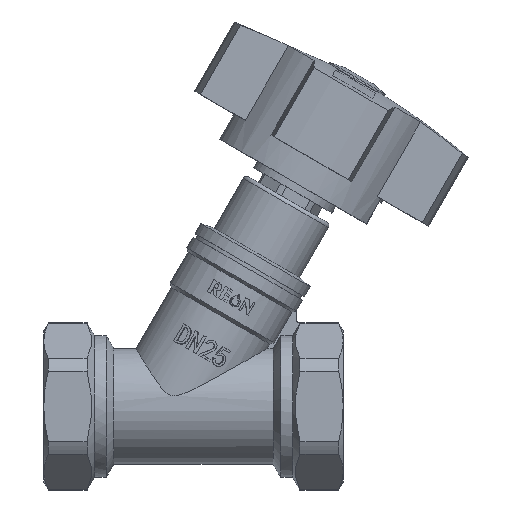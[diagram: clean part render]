
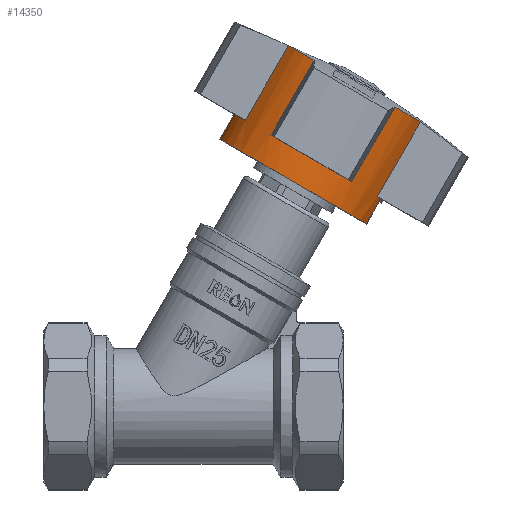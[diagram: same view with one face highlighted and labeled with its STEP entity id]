
A CAD part, top view. The second image highlights one B-rep face of the part: STEP entity #14350.
In plain terms, the highlighted cylindrical face has radius 23 mm (diameter 46 mm), a partial arc.
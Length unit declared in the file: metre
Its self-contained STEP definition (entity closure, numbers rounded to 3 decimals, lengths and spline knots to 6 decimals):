
#1852=LINE('',#47496,#2719);
#1853=LINE('',#47499,#2720);
#1854=LINE('',#47500,#2721);
#1855=LINE('',#47501,#2722);
#1856=LINE('',#47502,#2723);
#1857=LINE('',#47503,#2724);
#1858=LINE('',#47504,#2725);
#1859=LINE('',#47505,#2726);
#1860=LINE('',#47506,#2727);
#1861=LINE('',#47507,#2728);
#2719=VECTOR('',#18750,1.);
#2720=VECTOR('',#18753,1.);
#2721=VECTOR('',#18754,1.);
#2722=VECTOR('',#18755,1.);
#2723=VECTOR('',#18756,1.);
#2724=VECTOR('',#18757,1.);
#2725=VECTOR('',#18758,1.);
#2726=VECTOR('',#18759,1.);
#2727=VECTOR('',#18760,1.);
#2728=VECTOR('',#18761,1.);
#3258=CYLINDRICAL_SURFACE('',#15685,0.023);
#3944=FACE_OUTER_BOUND('',#4862,.T.);
#4862=EDGE_LOOP('',(#12498,#12499,#12500,#12501,#12502,#12503,#12504,#12505,
#12506,#12507,#12508,#12509,#12510,#12511,#12512,#12513,#12514,#12515,#12516,
#12517));
#5554=CIRCLE('',#15556,0.023);
#5558=CIRCLE('',#15560,0.023);
#5562=CIRCLE('',#15564,0.023);
#5566=CIRCLE('',#15568,0.023);
#5644=CIRCLE('',#15667,0.023);
#5647=CIRCLE('',#15671,0.023);
#5650=CIRCLE('',#15675,0.023);
#5651=CIRCLE('',#15676,0.023);
#5655=CIRCLE('',#15682,0.023);
#5658=CIRCLE('',#15686,0.023);
#6776=VERTEX_POINT('',#47148);
#6777=VERTEX_POINT('',#47150);
#6780=VERTEX_POINT('',#47156);
#6781=VERTEX_POINT('',#47158);
#6784=VERTEX_POINT('',#47164);
#6785=VERTEX_POINT('',#47166);
#6788=VERTEX_POINT('',#47172);
#6789=VERTEX_POINT('',#47174);
#6904=VERTEX_POINT('',#47428);
#6905=VERTEX_POINT('',#47430);
#6910=VERTEX_POINT('',#47442);
#6911=VERTEX_POINT('',#47444);
#6916=VERTEX_POINT('',#47456);
#6917=VERTEX_POINT('',#47458);
#6918=VERTEX_POINT('',#47461);
#6919=VERTEX_POINT('',#47463);
#6926=VERTEX_POINT('',#47481);
#6927=VERTEX_POINT('',#47483);
#6932=VERTEX_POINT('',#47495);
#6933=VERTEX_POINT('',#47497);
#8707=EDGE_CURVE('',#6777,#6776,#5554,.T.);
#8711=EDGE_CURVE('',#6781,#6780,#5558,.T.);
#8715=EDGE_CURVE('',#6785,#6784,#5562,.T.);
#8719=EDGE_CURVE('',#6789,#6788,#5566,.T.);
#8838=EDGE_CURVE('',#6905,#6904,#5644,.T.);
#8845=EDGE_CURVE('',#6911,#6910,#5647,.T.);
#8852=EDGE_CURVE('',#6917,#6916,#5650,.T.);
#8855=EDGE_CURVE('',#6919,#6918,#5651,.T.);
#8866=EDGE_CURVE('',#6926,#6927,#5655,.T.);
#8871=EDGE_CURVE('',#6932,#6916,#1852,.T.);
#8872=EDGE_CURVE('',#6933,#6932,#5658,.T.);
#8873=EDGE_CURVE('',#6919,#6933,#1853,.T.);
#8874=EDGE_CURVE('',#6789,#6918,#1854,.T.);
#8875=EDGE_CURVE('',#6788,#6911,#1855,.T.);
#8876=EDGE_CURVE('',#6785,#6910,#1856,.T.);
#8877=EDGE_CURVE('',#6784,#6905,#1857,.T.);
#8878=EDGE_CURVE('',#6781,#6904,#1858,.T.);
#8879=EDGE_CURVE('',#6780,#6926,#1859,.T.);
#8880=EDGE_CURVE('',#6777,#6927,#1860,.T.);
#8881=EDGE_CURVE('',#6776,#6917,#1861,.T.);
#12498=ORIENTED_EDGE('',*,*,#8871,.F.);
#12499=ORIENTED_EDGE('',*,*,#8872,.F.);
#12500=ORIENTED_EDGE('',*,*,#8873,.F.);
#12501=ORIENTED_EDGE('',*,*,#8855,.T.);
#12502=ORIENTED_EDGE('',*,*,#8874,.F.);
#12503=ORIENTED_EDGE('',*,*,#8719,.T.);
#12504=ORIENTED_EDGE('',*,*,#8875,.T.);
#12505=ORIENTED_EDGE('',*,*,#8845,.T.);
#12506=ORIENTED_EDGE('',*,*,#8876,.F.);
#12507=ORIENTED_EDGE('',*,*,#8715,.T.);
#12508=ORIENTED_EDGE('',*,*,#8877,.T.);
#12509=ORIENTED_EDGE('',*,*,#8838,.T.);
#12510=ORIENTED_EDGE('',*,*,#8878,.F.);
#12511=ORIENTED_EDGE('',*,*,#8711,.T.);
#12512=ORIENTED_EDGE('',*,*,#8879,.T.);
#12513=ORIENTED_EDGE('',*,*,#8866,.T.);
#12514=ORIENTED_EDGE('',*,*,#8880,.F.);
#12515=ORIENTED_EDGE('',*,*,#8707,.T.);
#12516=ORIENTED_EDGE('',*,*,#8881,.T.);
#12517=ORIENTED_EDGE('',*,*,#8852,.T.);
#14350=ADVANCED_FACE('',(#3944),#3258,.T.);
#15556=AXIS2_PLACEMENT_3D('',#47151,#18430,#18431);
#15560=AXIS2_PLACEMENT_3D('',#47159,#18438,#18439);
#15564=AXIS2_PLACEMENT_3D('',#47167,#18446,#18447);
#15568=AXIS2_PLACEMENT_3D('',#47175,#18454,#18455);
#15667=AXIS2_PLACEMENT_3D('',#47431,#18693,#18694);
#15671=AXIS2_PLACEMENT_3D('',#47445,#18705,#18706);
#15675=AXIS2_PLACEMENT_3D('',#47459,#18717,#18718);
#15676=AXIS2_PLACEMENT_3D('',#47464,#18721,#18722);
#15682=AXIS2_PLACEMENT_3D('',#47485,#18740,#18741);
#15685=AXIS2_PLACEMENT_3D('',#47494,#18748,#18749);
#15686=AXIS2_PLACEMENT_3D('',#47498,#18751,#18752);
#18430=DIRECTION('center_axis',(-0.5,-0.866,0.));
#18431=DIRECTION('ref_axis',(0.,0.,
-1.));
#18438=DIRECTION('center_axis',(-0.5,-0.866,0.));
#18439=DIRECTION('ref_axis',(0.866,-0.5,0.));
#18446=DIRECTION('center_axis',(-0.5,-0.866,0.));
#18447=DIRECTION('ref_axis',(0.866,-0.5,0.));
#18454=DIRECTION('center_axis',(-0.5,-0.866,0.));
#18455=DIRECTION('ref_axis',(0.,0.,
-1.));
#18693=DIRECTION('center_axis',(-0.5,-0.866,0.));
#18694=DIRECTION('ref_axis',(0.866,-0.5,0.));
#18705=DIRECTION('center_axis',(-0.5,-0.866,0.));
#18706=DIRECTION('ref_axis',(0.866,-0.5,0.));
#18717=DIRECTION('center_axis',(-0.5,-0.866,0.));
#18718=DIRECTION('ref_axis',(0.866,-0.5,0.));
#18721=DIRECTION('center_axis',(-0.5,-0.866,0.));
#18722=DIRECTION('ref_axis',(0.866,-0.5,0.));
#18740=DIRECTION('center_axis',(-0.5,-0.866,0.));
#18741=DIRECTION('ref_axis',(0.866,-0.5,0.));
#18748=DIRECTION('center_axis',(-0.5,-0.866,0.));
#18749=DIRECTION('ref_axis',(-0.866,0.5,0.));
#18750=DIRECTION('',(0.5,0.866,0.));
#18751=DIRECTION('center_axis',(-0.5,-0.866,0.));
#18752=DIRECTION('ref_axis',(0.866,-0.5,0.));
#18753=DIRECTION('',(-0.5,-0.866,0.));
#18754=DIRECTION('',(-0.5,-0.866,0.));
#18755=DIRECTION('',(-0.5,-0.866,0.));
#18756=DIRECTION('',(-0.5,-0.866,0.));
#18757=DIRECTION('',(-0.5,-0.866,0.));
#18758=DIRECTION('',(-0.5,-0.866,0.));
#18759=DIRECTION('',(-0.5,-0.866,0.));
#18760=DIRECTION('',(-0.5,-0.866,0.));
#18761=DIRECTION('',(-0.5,-0.866,0.));
#47148=CARTESIAN_POINT('',(0.058411,0.073186,-0.012));
#47150=CARTESIAN_POINT('',(0.051811,0.076997,-0.019621));
#47151=CARTESIAN_POINT('Origin',(0.041418,0.082997,
0.));
#47156=CARTESIAN_POINT('',(0.031026,0.088997,-0.019621));
#47158=CARTESIAN_POINT('',(0.024426,0.092808,-0.012));
#47159=CARTESIAN_POINT('Origin',(0.041418,0.082997,
0.));
#47164=CARTESIAN_POINT('',(0.024426,0.092808,0.012));
#47166=CARTESIAN_POINT('',(0.031026,0.088997,0.019621));
#47167=CARTESIAN_POINT('Origin',(0.041418,0.082997,
0.));
#47172=CARTESIAN_POINT('',(0.051811,0.076997,0.019621));
#47174=CARTESIAN_POINT('',(0.058411,0.073186,0.012));
#47175=CARTESIAN_POINT('Origin',(0.041418,0.082997,
0.));
#47428=CARTESIAN_POINT('',(0.01333,0.07359,-0.012));
#47430=CARTESIAN_POINT('',(0.01333,0.07359,0.012));
#47431=CARTESIAN_POINT('Origin',(0.030323,0.063779,0.));
#47442=CARTESIAN_POINT('',(0.01993,0.069779,0.019621));
#47444=CARTESIAN_POINT('',(0.040715,0.057779,0.019621));
#47445=CARTESIAN_POINT('Origin',(0.030323,0.063779,0.));
#47456=CARTESIAN_POINT('',(0.04826,0.053423,-0.01));
#47458=CARTESIAN_POINT('',(0.047315,0.053968,-0.012));
#47459=CARTESIAN_POINT('Origin',(0.030323,0.063779,0.));
#47461=CARTESIAN_POINT('',(0.047315,0.053968,0.012));
#47463=CARTESIAN_POINT('',(0.04826,0.053423,0.01));
#47464=CARTESIAN_POINT('Origin',(0.030323,0.063779,0.));
#47481=CARTESIAN_POINT('',(0.01993,0.069779,-0.019621));
#47483=CARTESIAN_POINT('',(0.040715,0.057779,-0.019621));
#47485=CARTESIAN_POINT('Origin',(0.030323,0.063779,0.));
#47494=CARTESIAN_POINT('Origin',(0.025573,0.055552,
0.));
#47495=CARTESIAN_POINT('',(0.04451,0.046927,-0.01));
#47496=CARTESIAN_POINT('',(0.04351,0.045195,-0.01));
#47497=CARTESIAN_POINT('',(0.04451,0.046927,0.01));
#47498=CARTESIAN_POINT('Origin',(0.026573,0.057284,
0.));
#47499=CARTESIAN_POINT('',(0.04351,0.045195,0.01));
#47500=CARTESIAN_POINT('',(0.059065,0.07432,0.012));
#47501=CARTESIAN_POINT('',(0.052465,0.07813,0.019621));
#47502=CARTESIAN_POINT('',(0.03168,0.09013,0.019621));
#47503=CARTESIAN_POINT('',(0.02508,0.093941,0.012));
#47504=CARTESIAN_POINT('',(0.02508,0.093941,-0.012));
#47505=CARTESIAN_POINT('',(0.03168,0.09013,-0.019621));
#47506=CARTESIAN_POINT('',(0.052465,0.07813,-0.019621));
#47507=CARTESIAN_POINT('',(0.059065,0.07432,-0.012));
